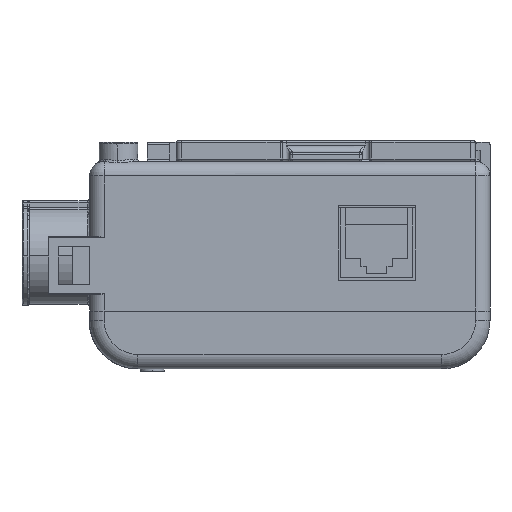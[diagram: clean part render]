
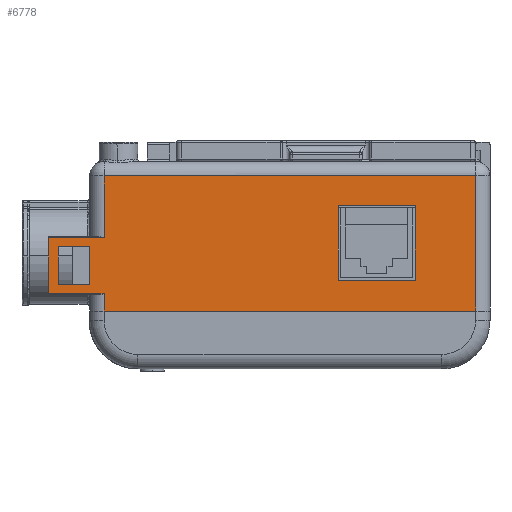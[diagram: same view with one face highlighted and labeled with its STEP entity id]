
A CAD part, left-side view. The second image highlights one B-rep face of the part: STEP entity #6778.
In plain terms, the highlighted planar face has unit normal (-1, 0, 0).
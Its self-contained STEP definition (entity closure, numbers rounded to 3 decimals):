
#200 = EDGE_LOOP ( 'NONE', ( #3873, #5855, #18551, #19920 ) ) ;
#214 = VERTEX_POINT ( 'NONE', #12368 ) ;
#246 = VECTOR ( 'NONE', #38200, 1000. ) ;
#1329 = ORIENTED_EDGE ( 'NONE', *, *, #29164, .F. ) ;
#1991 = DIRECTION ( 'NONE',  ( 0., 0., -1. ) ) ;
#2067 = EDGE_CURVE ( 'NONE', #33085, #6103, #26923, .T. ) ;
#2304 = EDGE_CURVE ( 'NONE', #19995, #21090, #49371, .T. ) ;
#2627 = ORIENTED_EDGE ( 'NONE', *, *, #7881, .F. ) ;
#2677 = VECTOR ( 'NONE', #14952, 1000. ) ;
#2998 = VECTOR ( 'NONE', #25856, 1000. ) ;
#3216 = LINE ( 'NONE', #11351, #23860 ) ;
#3257 = VERTEX_POINT ( 'NONE', #44318 ) ;
#3873 = ORIENTED_EDGE ( 'NONE', *, *, #38099, .T. ) ;
#4177 = CARTESIAN_POINT ( 'NONE',  ( -71., -26., -3.1 ) ) ;
#4227 = LINE ( 'NONE', #34834, #43875 ) ;
#4229 = DIRECTION ( 'NONE',  ( 0., 0., -1. ) ) ;
#4748 = LINE ( 'NONE', #24140, #48682 ) ;
#4863 = ORIENTED_EDGE ( 'NONE', *, *, #2067, .F. ) ;
#5736 = VERTEX_POINT ( 'NONE', #29380 ) ;
#5818 = LINE ( 'NONE', #17284, #34306 ) ;
#5855 = ORIENTED_EDGE ( 'NONE', *, *, #2304, .T. ) ;
#6053 = ORIENTED_EDGE ( 'NONE', *, *, #23039, .F. ) ;
#6103 = VERTEX_POINT ( 'NONE', #16084 ) ;
#6778 = ADVANCED_FACE ( 'NONE', ( #46123, #11129, #19034 ), #18526, .T. ) ;
#6823 = CARTESIAN_POINT ( 'NONE',  ( -71., 41.5, -4. ) ) ;
#7760 = EDGE_CURVE ( 'NONE', #33085, #39560, #4227, .T. ) ;
#7881 = EDGE_CURVE ( 'NONE', #37216, #25566, #49977, .T. ) ;
#8821 = DIRECTION ( 'NONE',  ( 0., 0., -1. ) ) ;
#9404 = CARTESIAN_POINT ( 'NONE',  ( -71., 38.5, -5.9 ) ) ;
#10366 = CARTESIAN_POINT ( 'NONE',  ( -71., 48., -4. ) ) ;
#10881 = DIRECTION ( 'NONE',  ( 0., 0., 1. ) ) ;
#11129 = FACE_BOUND ( 'NONE', #45614, .T. ) ;
#11351 = CARTESIAN_POINT ( 'NONE',  ( -71., 48., 3.8 ) ) ;
#11636 = LINE ( 'NONE', #26941, #246 ) ;
#11899 = EDGE_CURVE ( 'NONE', #42734, #38696, #28506, .T. ) ;
#12088 = VECTOR ( 'NONE', #13357, 1000. ) ;
#12368 = CARTESIAN_POINT ( 'NONE',  ( -71., -10., -3.1 ) ) ;
#12590 = VERTEX_POINT ( 'NONE', #19464 ) ;
#12638 = CARTESIAN_POINT ( 'NONE',  ( -71., -26., 12.3 ) ) ;
#12736 = VECTOR ( 'NONE', #4229, 1000. ) ;
#13357 = DIRECTION ( 'NONE',  ( 0., 0., 1. ) ) ;
#13778 = CARTESIAN_POINT ( 'NONE',  ( -71., 50., 5.7 ) ) ;
#14453 = DIRECTION ( 'NONE',  ( -1., 0., 0. ) ) ;
#14699 = CARTESIAN_POINT ( 'NONE',  ( -71., -10., -3.1 ) ) ;
#14952 = DIRECTION ( 'NONE',  ( 0., 0., 1. ) ) ;
#15322 = VERTEX_POINT ( 'NONE', #22505 ) ;
#15386 = ORIENTED_EDGE ( 'NONE', *, *, #11899, .F. ) ;
#15694 = DIRECTION ( 'NONE',  ( 0., 1., 0. ) ) ;
#16084 = CARTESIAN_POINT ( 'NONE',  ( -71., -38.5, -9.5 ) ) ;
#16422 = LINE ( 'NONE', #43517, #12088 ) ;
#16562 = CARTESIAN_POINT ( 'NONE',  ( -71., -26., -3.1 ) ) ;
#17187 = LINE ( 'NONE', #20776, #21559 ) ;
#17284 = CARTESIAN_POINT ( 'NONE',  ( -71., 38.5, 18.5 ) ) ;
#17437 = DIRECTION ( 'NONE',  ( 0., 1., 0. ) ) ;
#17513 = VERTEX_POINT ( 'NONE', #16562 ) ;
#18526 = PLANE ( 'NONE',  #29039 ) ;
#18551 = ORIENTED_EDGE ( 'NONE', *, *, #41698, .T. ) ;
#19034 = FACE_OUTER_BOUND ( 'NONE', #26734, .T. ) ;
#19209 = CARTESIAN_POINT ( 'NONE',  ( -71., 38.5, 18.5 ) ) ;
#19276 = EDGE_CURVE ( 'NONE', #5736, #48041, #28643, .T. ) ;
#19464 = CARTESIAN_POINT ( 'NONE',  ( -71., 50., -5.9 ) ) ;
#19720 = DIRECTION ( 'NONE',  ( 0., 1., 0. ) ) ;
#19842 = CARTESIAN_POINT ( 'NONE',  ( -71., 50., 5.7 ) ) ;
#19920 = ORIENTED_EDGE ( 'NONE', *, *, #39744, .T. ) ;
#19995 = VERTEX_POINT ( 'NONE', #49883 ) ;
#20776 = CARTESIAN_POINT ( 'NONE',  ( -71., 38.5, -5.9 ) ) ;
#21090 = VERTEX_POINT ( 'NONE', #12638 ) ;
#21559 = VECTOR ( 'NONE', #17437, 1000. ) ;
#22399 = CARTESIAN_POINT ( 'NONE',  ( -71., -38.5, 18.5 ) ) ;
#22505 = CARTESIAN_POINT ( 'NONE',  ( -71., 38.5, -9.5 ) ) ;
#23039 = EDGE_CURVE ( 'NONE', #48041, #37216, #3216, .T. ) ;
#23860 = VECTOR ( 'NONE', #26920, 1000. ) ;
#24074 = CARTESIAN_POINT ( 'NONE',  ( -71., 38.5, 5.7 ) ) ;
#24140 = CARTESIAN_POINT ( 'NONE',  ( -71., -26., 12.3 ) ) ;
#25229 = DIRECTION ( 'NONE',  ( 0., 0., -1. ) ) ;
#25249 = VECTOR ( 'NONE', #39515, 1000. ) ;
#25566 = VERTEX_POINT ( 'NONE', #6823 ) ;
#25856 = DIRECTION ( 'NONE',  ( 0., -1., 0. ) ) ;
#26145 = VECTOR ( 'NONE', #28383, 1000. ) ;
#26252 = EDGE_CURVE ( 'NONE', #3257, #12590, #17187, .T. ) ;
#26734 = EDGE_LOOP ( 'NONE', ( #35494, #40652, #33965, #4863, #34876, #48397, #15386, #45754 ) ) ;
#26920 = DIRECTION ( 'NONE',  ( 0., 0., -1. ) ) ;
#26923 = LINE ( 'NONE', #39199, #12736 ) ;
#26941 = CARTESIAN_POINT ( 'NONE',  ( -71., -38.5, -9.5 ) ) ;
#28383 = DIRECTION ( 'NONE',  ( 0., 1., 0. ) ) ;
#28506 = LINE ( 'NONE', #19842, #25249 ) ;
#28643 = LINE ( 'NONE', #33467, #26145 ) ;
#29039 = AXIS2_PLACEMENT_3D ( 'NONE', #33848, #14453, #10881 ) ;
#29164 = EDGE_CURVE ( 'NONE', #25566, #5736, #16422, .T. ) ;
#29380 = CARTESIAN_POINT ( 'NONE',  ( -71., 41.5, 3.8 ) ) ;
#30322 = CARTESIAN_POINT ( 'NONE',  ( -71., 50., -5.9 ) ) ;
#30825 = DIRECTION ( 'NONE',  ( 0., 0., 1. ) ) ;
#31218 = ORIENTED_EDGE ( 'NONE', *, *, #19276, .F. ) ;
#33085 = VERTEX_POINT ( 'NONE', #22399 ) ;
#33467 = CARTESIAN_POINT ( 'NONE',  ( -71., 41.5, 3.8 ) ) ;
#33848 = CARTESIAN_POINT ( 'NONE',  ( -71., -41.5, -21.5 ) ) ;
#33965 = ORIENTED_EDGE ( 'NONE', *, *, #38137, .F. ) ;
#34306 = VECTOR ( 'NONE', #1991, 1000. ) ;
#34834 = CARTESIAN_POINT ( 'NONE',  ( -71., -38.5, 18.5 ) ) ;
#34854 = LINE ( 'NONE', #14699, #2677 ) ;
#34876 = ORIENTED_EDGE ( 'NONE', *, *, #7760, .T. ) ;
#34998 = VECTOR ( 'NONE', #25229, 1000. ) ;
#35494 = ORIENTED_EDGE ( 'NONE', *, *, #26252, .F. ) ;
#36026 = VECTOR ( 'NONE', #30825, 1000. ) ;
#37216 = VERTEX_POINT ( 'NONE', #10366 ) ;
#38099 = EDGE_CURVE ( 'NONE', #214, #19995, #34854, .T. ) ;
#38137 = EDGE_CURVE ( 'NONE', #6103, #15322, #11636, .T. ) ;
#38200 = DIRECTION ( 'NONE',  ( 0., 1., 0. ) ) ;
#38696 = VERTEX_POINT ( 'NONE', #24074 ) ;
#39135 = LINE ( 'NONE', #4177, #40309 ) ;
#39199 = CARTESIAN_POINT ( 'NONE',  ( -71., -38.5, 18.5 ) ) ;
#39515 = DIRECTION ( 'NONE',  ( 0., -1., 0. ) ) ;
#39560 = VERTEX_POINT ( 'NONE', #19209 ) ;
#39744 = EDGE_CURVE ( 'NONE', #17513, #214, #39135, .T. ) ;
#40309 = VECTOR ( 'NONE', #19720, 1000. ) ;
#40652 = ORIENTED_EDGE ( 'NONE', *, *, #44391, .T. ) ;
#41405 = VECTOR ( 'NONE', #45379, 1000. ) ;
#41698 = EDGE_CURVE ( 'NONE', #21090, #17513, #4748, .T. ) ;
#42734 = VERTEX_POINT ( 'NONE', #13778 ) ;
#43517 = CARTESIAN_POINT ( 'NONE',  ( -71., 41.5, -4. ) ) ;
#43875 = VECTOR ( 'NONE', #15694, 1000. ) ;
#44318 = CARTESIAN_POINT ( 'NONE',  ( -71., 38.5, -5.9 ) ) ;
#44391 = EDGE_CURVE ( 'NONE', #3257, #15322, #47723, .T. ) ;
#45379 = DIRECTION ( 'NONE',  ( 0., -1., 0. ) ) ;
#45614 = EDGE_LOOP ( 'NONE', ( #2627, #6053, #31218, #1329 ) ) ;
#45754 = ORIENTED_EDGE ( 'NONE', *, *, #48642, .F. ) ;
#45879 = CARTESIAN_POINT ( 'NONE',  ( -71., 48., -4. ) ) ;
#46123 = FACE_BOUND ( 'NONE', #200, .T. ) ;
#46186 = LINE ( 'NONE', #30322, #36026 ) ;
#47723 = LINE ( 'NONE', #9404, #34998 ) ;
#47767 = EDGE_CURVE ( 'NONE', #39560, #38696, #5818, .T. ) ;
#48041 = VERTEX_POINT ( 'NONE', #50461 ) ;
#48397 = ORIENTED_EDGE ( 'NONE', *, *, #47767, .T. ) ;
#48642 = EDGE_CURVE ( 'NONE', #12590, #42734, #46186, .T. ) ;
#48682 = VECTOR ( 'NONE', #8821, 1000. ) ;
#49371 = LINE ( 'NONE', #49623, #2998 ) ;
#49623 = CARTESIAN_POINT ( 'NONE',  ( -71., -10., 12.3 ) ) ;
#49883 = CARTESIAN_POINT ( 'NONE',  ( -71., -10., 12.3 ) ) ;
#49977 = LINE ( 'NONE', #45879, #41405 ) ;
#50461 = CARTESIAN_POINT ( 'NONE',  ( -71., 48., 3.8 ) ) ;
